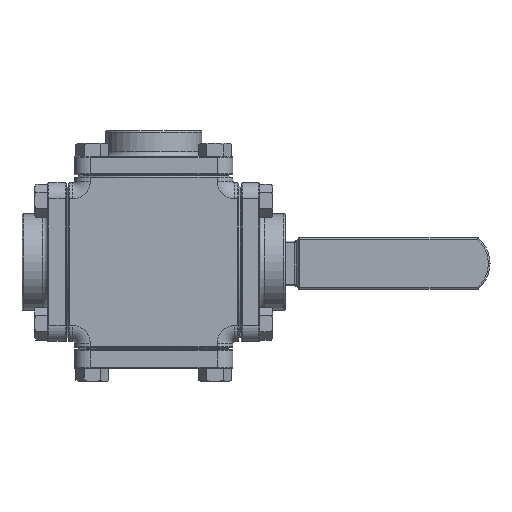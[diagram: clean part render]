
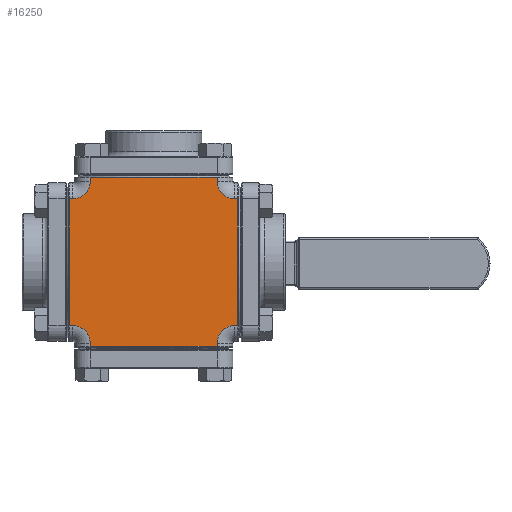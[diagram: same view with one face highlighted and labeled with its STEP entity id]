
A CAD part, front view. The second image highlights one B-rep face of the part: STEP entity #16250.
In plain terms, the highlighted planar face has unit normal (0, -1, 0).
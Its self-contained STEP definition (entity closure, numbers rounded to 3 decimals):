
#3343 = DIRECTION ( 'NONE',  ( 0., 0., -1. ) ) ;
#3344 = VECTOR ( 'NONE', #3343, 1000. ) ;
#3891 = CARTESIAN_POINT ( 'NONE',  ( 38.1, -47.25, 51.1 ) ) ;
#3892 = DIRECTION ( 'NONE',  ( 1., 0., 0. ) ) ;
#3893 = VECTOR ( 'NONE', #3892, 1000. ) ;
#3894 = CARTESIAN_POINT ( 'NONE',  ( 47.6, -47.25, 51.1 ) ) ;
#3895 = LINE ( 'NONE', #3894, #3893 ) ;
#3896 = CARTESIAN_POINT ( 'NONE',  ( -38.1, -47.25, 51.1 ) ) ;
#4197 = CARTESIAN_POINT ( 'NONE',  ( -48.6, -47.25, 38.1 ) ) ;
#4198 = DIRECTION ( 'NONE',  ( -1., 0., 0. ) ) ;
#4199 = VECTOR ( 'NONE', #4198, 1000. ) ;
#4200 = CARTESIAN_POINT ( 'NONE',  ( -47.6, -47.25, 38.1 ) ) ;
#4201 = DIRECTION ( 'NONE',  ( 0., 0., 1. ) ) ;
#4202 = DIRECTION ( 'NONE',  ( 0., 1., 0. ) ) ;
#4203 = CARTESIAN_POINT ( 'NONE',  ( -47.6, -47.25, -51.1 ) ) ;
#4204 = AXIS2_PLACEMENT_3D ( 'NONE', #4203, #4202, #4201 ) ;
#4205 = PLANE ( 'NONE',  #4204 ) ;
#4206 = LINE ( 'NONE', #4200, #4199 ) ;
#4207 = FACE_OUTER_BOUND ( 'NONE', #16251, .T. ) ;
#4253 = AXIS2_PLACEMENT_3D ( 'NONE', #4315, #4314, #4313 ) ;
#4254 = CIRCLE ( 'NONE', #4253, 10.5 ) ;
#4255 = CARTESIAN_POINT ( 'NONE',  ( 48.6, -47.25, 38.1 ) ) ;
#4283 = DIRECTION ( 'NONE',  ( 0., 0., 1. ) ) ;
#4284 = DIRECTION ( 'NONE',  ( 0., 1., 0. ) ) ;
#4285 = CARTESIAN_POINT ( 'NONE',  ( 48.6, -47.25, -48.6 ) ) ;
#4286 = AXIS2_PLACEMENT_3D ( 'NONE', #4285, #4284, #4283 ) ;
#4287 = CIRCLE ( 'NONE', #4286, 10.5 ) ;
#4288 = CARTESIAN_POINT ( 'NONE',  ( 38.1, -47.25, -48.6 ) ) ;
#4289 = DIRECTION ( 'NONE',  ( 0., 0., 1. ) ) ;
#4290 = VECTOR ( 'NONE', #4289, 1000. ) ;
#4291 = CARTESIAN_POINT ( 'NONE',  ( 38.1, -47.25, -51.1 ) ) ;
#4292 = LINE ( 'NONE', #4291, #4290 ) ;
#4293 = CARTESIAN_POINT ( 'NONE',  ( 38.1, -47.25, -50.6 ) ) ;
#4294 = DIRECTION ( 'NONE',  ( 1., 0., 0. ) ) ;
#4295 = VECTOR ( 'NONE', #4294, 1000. ) ;
#4296 = CARTESIAN_POINT ( 'NONE',  ( -47.6, -47.25, -50.6 ) ) ;
#4297 = LINE ( 'NONE', #4296, #4295 ) ;
#4298 = DIRECTION ( 'NONE',  ( 0., 0., 1. ) ) ;
#4299 = DIRECTION ( 'NONE',  ( 0., 1., 0. ) ) ;
#4300 = CARTESIAN_POINT ( 'NONE',  ( -48.6, -47.25, 48.6 ) ) ;
#4301 = AXIS2_PLACEMENT_3D ( 'NONE', #4300, #4299, #4298 ) ;
#4302 = CIRCLE ( 'NONE', #4301, 10.5 ) ;
#4303 = CARTESIAN_POINT ( 'NONE',  ( -38.1, -47.25, 48.6 ) ) ;
#4304 = DIRECTION ( 'NONE',  ( 0., 0., -1. ) ) ;
#4305 = VECTOR ( 'NONE', #4304, 1000. ) ;
#4306 = CARTESIAN_POINT ( 'NONE',  ( -38.1, -47.25, -51.1 ) ) ;
#4307 = LINE ( 'NONE', #4306, #4305 ) ;
#4308 = DIRECTION ( 'NONE',  ( 0., 0., 1. ) ) ;
#4309 = VECTOR ( 'NONE', #4308, 1000. ) ;
#4310 = CARTESIAN_POINT ( 'NONE',  ( 38.1, -47.25, -51.1 ) ) ;
#4311 = LINE ( 'NONE', #4310, #4309 ) ;
#4312 = CARTESIAN_POINT ( 'NONE',  ( 38.1, -47.25, 48.6 ) ) ;
#4313 = DIRECTION ( 'NONE',  ( 0., 0., 1. ) ) ;
#4314 = DIRECTION ( 'NONE',  ( 0., 1., 0. ) ) ;
#4315 = CARTESIAN_POINT ( 'NONE',  ( 48.6, -47.25, 48.6 ) ) ;
#4317 = CARTESIAN_POINT ( 'NONE',  ( -38.1, -47.25, -51.1 ) ) ;
#4318 = LINE ( 'NONE', #4317, #3344 ) ;
#4319 = CARTESIAN_POINT ( 'NONE',  ( -38.1, -47.25, -48.6 ) ) ;
#4320 = DIRECTION ( 'NONE',  ( 0., 0., 1. ) ) ;
#4321 = DIRECTION ( 'NONE',  ( 0., 1., 0. ) ) ;
#4322 = CARTESIAN_POINT ( 'NONE',  ( -48.6, -47.25, -48.6 ) ) ;
#4323 = AXIS2_PLACEMENT_3D ( 'NONE', #4322, #4321, #4320 ) ;
#4324 = CIRCLE ( 'NONE', #4323, 10.5 ) ;
#4325 = CARTESIAN_POINT ( 'NONE',  ( -48.6, -47.25, -38.1 ) ) ;
#4326 = DIRECTION ( 'NONE',  ( 1., 0., 0. ) ) ;
#4327 = VECTOR ( 'NONE', #4326, 1000. ) ;
#4328 = CARTESIAN_POINT ( 'NONE',  ( -47.6, -47.25, -38.1 ) ) ;
#4329 = LINE ( 'NONE', #4328, #4327 ) ;
#4330 = CARTESIAN_POINT ( 'NONE',  ( -50.6, -47.25, -38.1 ) ) ;
#4331 = DIRECTION ( 'NONE',  ( 0., 0., -1. ) ) ;
#4332 = VECTOR ( 'NONE', #4331, 1000. ) ;
#4333 = CARTESIAN_POINT ( 'NONE',  ( -50.6, -47.25, -51.1 ) ) ;
#4334 = LINE ( 'NONE', #4333, #4332 ) ;
#4335 = CARTESIAN_POINT ( 'NONE',  ( -50.6, -47.25, 38.1 ) ) ;
#4336 = CARTESIAN_POINT ( 'NONE',  ( 50.6, -47.25, 38.1 ) ) ;
#4337 = DIRECTION ( 'NONE',  ( 0., 0., 1. ) ) ;
#4338 = VECTOR ( 'NONE', #4337, 1000. ) ;
#4339 = CARTESIAN_POINT ( 'NONE',  ( 50.6, -47.25, -51.1 ) ) ;
#4340 = LINE ( 'NONE', #4339, #4338 ) ;
#4341 = CARTESIAN_POINT ( 'NONE',  ( 50.6, -47.25, -38.1 ) ) ;
#4342 = DIRECTION ( 'NONE',  ( 1., 0., 0. ) ) ;
#4343 = VECTOR ( 'NONE', #4342, 1000. ) ;
#4344 = CARTESIAN_POINT ( 'NONE',  ( -47.6, -47.25, -38.1 ) ) ;
#4345 = LINE ( 'NONE', #4344, #4343 ) ;
#4346 = CARTESIAN_POINT ( 'NONE',  ( 48.6, -47.25, -38.1 ) ) ;
#4376 = CARTESIAN_POINT ( 'NONE',  ( -38.1, -47.25, -50.6 ) ) ;
#4410 = DIRECTION ( 'NONE',  ( -1., 0., 0. ) ) ;
#4411 = VECTOR ( 'NONE', #4410, 1000. ) ;
#4412 = CARTESIAN_POINT ( 'NONE',  ( -47.6, -47.25, 38.1 ) ) ;
#4413 = LINE ( 'NONE', #4412, #4411 ) ;
#16065 = VERTEX_POINT ( 'NONE', #3896 ) ;
#16067 = EDGE_CURVE ( 'NONE', #16065, #16068, #3895, .T. ) ;
#16068 = VERTEX_POINT ( 'NONE', #3891 ) ;
#16250 = ADVANCED_FACE ( 'NONE', ( #4207 ), #4205, .F. ) ;
#16251 = EDGE_LOOP ( 'NONE', ( #16252, #16317, #16320, #16323, #16326, #16329, #16303, #16306, #16309, #16312, #16315, #16289, #16292, #16294, #16295, #16298 ) ) ;
#16252 = ORIENTED_EDGE ( 'NONE', *, *, #16253, .T. ) ;
#16253 = EDGE_CURVE ( 'NONE', #16254, #16316, #4206, .T. ) ;
#16254 = VERTEX_POINT ( 'NONE', #4197 ) ;
#16288 = VERTEX_POINT ( 'NONE', #4255 ) ;
#16289 = ORIENTED_EDGE ( 'NONE', *, *, #16290, .T. ) ;
#16290 = EDGE_CURVE ( 'NONE', #16288, #16291, #4254, .T. ) ;
#16291 = VERTEX_POINT ( 'NONE', #4312 ) ;
#16292 = ORIENTED_EDGE ( 'NONE', *, *, #16293, .T. ) ;
#16293 = EDGE_CURVE ( 'NONE', #16291, #16068, #4311, .T. ) ;
#16294 = ORIENTED_EDGE ( 'NONE', *, *, #16067, .F. ) ;
#16295 = ORIENTED_EDGE ( 'NONE', *, *, #16296, .T. ) ;
#16296 = EDGE_CURVE ( 'NONE', #16065, #16297, #4307, .T. ) ;
#16297 = VERTEX_POINT ( 'NONE', #4303 ) ;
#16298 = ORIENTED_EDGE ( 'NONE', *, *, #16299, .T. ) ;
#16299 = EDGE_CURVE ( 'NONE', #16297, #16254, #4302, .T. ) ;
#16301 = EDGE_CURVE ( 'NONE', #16328, #16302, #4297, .T. ) ;
#16302 = VERTEX_POINT ( 'NONE', #4293 ) ;
#16303 = ORIENTED_EDGE ( 'NONE', *, *, #16304, .T. ) ;
#16304 = EDGE_CURVE ( 'NONE', #16302, #16305, #4292, .T. ) ;
#16305 = VERTEX_POINT ( 'NONE', #4288 ) ;
#16306 = ORIENTED_EDGE ( 'NONE', *, *, #16307, .T. ) ;
#16307 = EDGE_CURVE ( 'NONE', #16305, #16308, #4287, .T. ) ;
#16308 = VERTEX_POINT ( 'NONE', #4346 ) ;
#16309 = ORIENTED_EDGE ( 'NONE', *, *, #16310, .T. ) ;
#16310 = EDGE_CURVE ( 'NONE', #16308, #16311, #4345, .T. ) ;
#16311 = VERTEX_POINT ( 'NONE', #4341 ) ;
#16312 = ORIENTED_EDGE ( 'NONE', *, *, #16313, .T. ) ;
#16313 = EDGE_CURVE ( 'NONE', #16311, #16314, #4340, .T. ) ;
#16314 = VERTEX_POINT ( 'NONE', #4336 ) ;
#16315 = ORIENTED_EDGE ( 'NONE', *, *, #16373, .T. ) ;
#16316 = VERTEX_POINT ( 'NONE', #4335 ) ;
#16317 = ORIENTED_EDGE ( 'NONE', *, *, #16318, .T. ) ;
#16318 = EDGE_CURVE ( 'NONE', #16316, #16319, #4334, .T. ) ;
#16319 = VERTEX_POINT ( 'NONE', #4330 ) ;
#16320 = ORIENTED_EDGE ( 'NONE', *, *, #16321, .T. ) ;
#16321 = EDGE_CURVE ( 'NONE', #16319, #16322, #4329, .T. ) ;
#16322 = VERTEX_POINT ( 'NONE', #4325 ) ;
#16323 = ORIENTED_EDGE ( 'NONE', *, *, #16324, .T. ) ;
#16324 = EDGE_CURVE ( 'NONE', #16322, #16325, #4324, .T. ) ;
#16325 = VERTEX_POINT ( 'NONE', #4319 ) ;
#16326 = ORIENTED_EDGE ( 'NONE', *, *, #16327, .T. ) ;
#16327 = EDGE_CURVE ( 'NONE', #16325, #16328, #4318, .T. ) ;
#16328 = VERTEX_POINT ( 'NONE', #4376 ) ;
#16329 = ORIENTED_EDGE ( 'NONE', *, *, #16301, .T. ) ;
#16373 = EDGE_CURVE ( 'NONE', #16314, #16288, #4413, .T. ) ;
